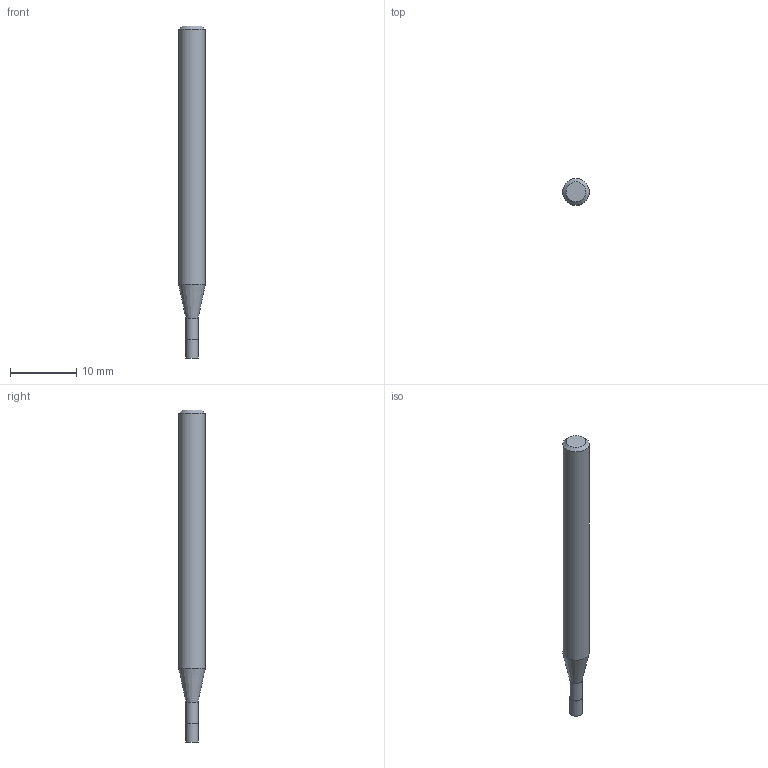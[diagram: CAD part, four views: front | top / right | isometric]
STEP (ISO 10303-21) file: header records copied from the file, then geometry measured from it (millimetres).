
FILE_DESCRIPTION((''),'2;1');
FILE_NAME('C:\Users\nsx150\AppData\Local\Temp\Mastercam 2021\17T8Q8S9EB\TEMP.step','2021-04-21T16:15:32',(''),(''),'STEP Write','Mastercam 2021 ... CNC Software, Inc.','');
FILE_SCHEMA(('AUTOMOTIVE_DESIGN'));
Length unit declared in the file: millimetre
Products named in the file (1): None
Bounding box: 4 x 4 x 50 mm (x, y, z)
Volume: 539.7 mm3; surface area: 588.8 mm2
Topology: 2 solids, 2 shells, 9 faces, 12 edges, 7 vertices
Faces by surface type: plane 4, cylinder 3, cone 2
Full cylindrical faces by diameter (mm): 1.84 x1, 1.9 x1, 4 x1
Entity records: 211 total; most frequent: DIRECTION 36, CARTESIAN_POINT 25, AXIS2_PLACEMENT_3D 18, ORIENTED_EDGE 14, EDGE_LOOP 14, STYLED_ITEM 12, ADVANCED_FACE 9, FACE_BOUND 8
